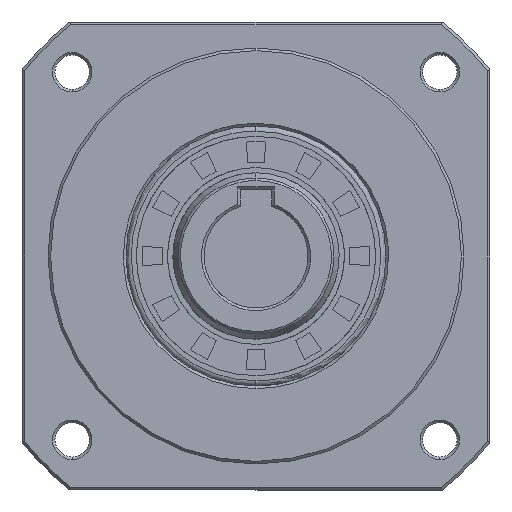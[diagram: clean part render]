
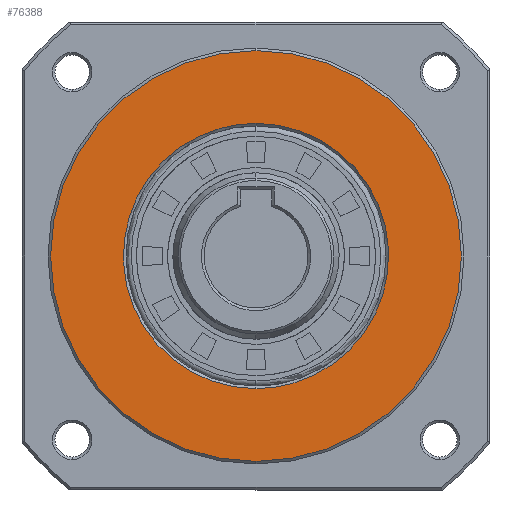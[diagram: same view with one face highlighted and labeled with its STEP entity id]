
A CAD part, left-side view. The second image highlights one B-rep face of the part: STEP entity #76388.
In plain terms, the highlighted planar face has unit normal (-1, 0, 0).
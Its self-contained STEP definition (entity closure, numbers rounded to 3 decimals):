
#1049 = DIRECTION ( 'NONE',  ( 0., 0., -1. ) ) ;
#2673 = CARTESIAN_POINT ( 'NONE',  ( 0., -25.337, -3.333 ) ) ;
#3002 = CARTESIAN_POINT ( 'NONE',  ( 0., -15.559, -20.272 ) ) ;
#4056 = CARTESIAN_POINT ( 'NONE',  ( 0., 25.5, -1.674 ) ) ;
#6644 = CARTESIAN_POINT ( 'NONE',  ( 0., -1.674, 25.5 ) ) ;
#7925 = CARTESIAN_POINT ( 'NONE',  ( 0., -24.2, 8.212 ) ) ;
#9591 = EDGE_CURVE ( 'NONE', #60643, #68438, #23254, .T. ) ;
#10232 = CARTESIAN_POINT ( 'NONE',  ( 0., -25.5, 1.674 ) ) ;
#10330 = CARTESIAN_POINT ( 'NONE',  ( 0., 20.272, -15.559 ) ) ;
#11310 = CARTESIAN_POINT ( 'NONE',  ( 0., 15.559, 20.272 ) ) ;
#11628 = CARTESIAN_POINT ( 'NONE',  ( 0., 0., 25.5 ) ) ;
#12133 = AXIS2_PLACEMENT_3D ( 'NONE', #48439, #71153, #40581 ) ;
#15513 = CARTESIAN_POINT ( 'NONE',  ( 0., -6.617, 24.683 ) ) ;
#15834 = CARTESIAN_POINT ( 'NONE',  ( 0., -11.305, 22.918 ) ) ;
#17261 = CARTESIAN_POINT ( 'NONE',  ( 0., 24.2, -8.212 ) ) ;
#17814 = CARTESIAN_POINT ( 'NONE',  ( 0., -19.215, -16.848 ) ) ;
#18442 = CARTESIAN_POINT ( 'NONE',  ( 0., 0., 0. ) ) ;
#18554 = CARTESIAN_POINT ( 'NONE',  ( 0., 19.215, -16.848 ) ) ;
#18869 = CARTESIAN_POINT ( 'NONE',  ( 0., 25.337, 3.333 ) ) ;
#19202 = CARTESIAN_POINT ( 'NONE',  ( 0., 20.272, 15.559 ) ) ;
#22404 = ORIENTED_EDGE ( 'NONE', *, *, #97047, .F. ) ;
#23117 = CARTESIAN_POINT ( 'NONE',  ( 0., -12.775, -22.133 ) ) ;
#23254 = B_SPLINE_CURVE_WITH_KNOTS ( 'NONE', 3,
 ( #56067, #32433, #71191, #33725, #70877, #63653, #85728, #62332, #55409, #18554, #10330, #25508, #63004, #17261, #69908, #85078, #4056, #41607, #18869, #71842, #26797, #86687, #94291, #19202, #71514, #56378, #11310, #63982, #26473, #79141, #49123, #34049, #56714, #11628 ),
 .UNSPECIFIED., .F., .F.,
 ( 4, 2, 2, 2, 2, 2, 2, 2, 2, 2, 2, 2, 2, 2, 2, 2, 4 ),
 ( 0.5, 0.531, 0.563, 0.594, 0.625, 0.656, 0.688, 0.719, 0.75, 0.781, 0.813, 0.844, 0.875, 0.906, 0.938, 0.969, 1. ),
 .UNSPECIFIED. ) ;
#23706 = AXIS2_PLACEMENT_3D ( 'NONE', #18442, #71082, #26042 ) ;
#23742 = CARTESIAN_POINT ( 'NONE',  ( 0., -16.848, -19.215 ) ) ;
#24618 = VERTEX_POINT ( 'NONE', #49367 ) ;
#25071 = CIRCLE ( 'NONE', #23706, 39.5 ) ;
#25414 = CARTESIAN_POINT ( 'NONE',  ( 0., -12.775, 22.132 ) ) ;
#25508 = CARTESIAN_POINT ( 'NONE',  ( 0., 22.133, -12.775 ) ) ;
#26042 = DIRECTION ( 'NONE',  ( 0., 0., -1. ) ) ;
#26473 = CARTESIAN_POINT ( 'NONE',  ( 0., 11.305, 22.918 ) ) ;
#26789 = CARTESIAN_POINT ( 'NONE',  ( 0., 0., -25.5 ) ) ;
#26797 = CARTESIAN_POINT ( 'NONE',  ( 0., 24.2, 8.212 ) ) ;
#28980 = ORIENTED_EDGE ( 'NONE', *, *, #95268, .F. ) ;
#30678 = CARTESIAN_POINT ( 'NONE',  ( 0., -3.333, -25.337 ) ) ;
#31001 = CARTESIAN_POINT ( 'NONE',  ( 0., -3.333, 25.337 ) ) ;
#32433 = CARTESIAN_POINT ( 'NONE',  ( 0., 1.674, -25.5 ) ) ;
#32656 = CARTESIAN_POINT ( 'NONE',  ( 0., -24.683, 6.617 ) ) ;
#32974 = CARTESIAN_POINT ( 'NONE',  ( 0., -22.918, -11.305 ) ) ;
#33725 = CARTESIAN_POINT ( 'NONE',  ( 0., 6.617, -24.683 ) ) ;
#34049 = CARTESIAN_POINT ( 'NONE',  ( 0., 3.333, 25.337 ) ) ;
#38233 = CARTESIAN_POINT ( 'NONE',  ( 0., -8.212, -24.2 ) ) ;
#38544 = CARTESIAN_POINT ( 'NONE',  ( 0., -20.272, 15.559 ) ) ;
#39548 = EDGE_CURVE ( 'NONE', #68438, #60643, #92985, .T. ) ;
#40523 = CARTESIAN_POINT ( 'NONE',  ( 0., -22.918, 11.305 ) ) ;
#40581 = DIRECTION ( 'NONE',  ( 0., 0., -1. ) ) ;
#41607 = CARTESIAN_POINT ( 'NONE',  ( 0., 25.5, 1.674 ) ) ;
#42940 = CARTESIAN_POINT ( 'NONE',  ( 0., 0., -39.5 ) ) ;
#45433 = CARTESIAN_POINT ( 'NONE',  ( 0., -1.674, -25.5 ) ) ;
#46998 = CIRCLE ( 'NONE', #57131, 39.5 ) ;
#48054 = CARTESIAN_POINT ( 'NONE',  ( 0., -20.272, -15.559 ) ) ;
#48439 = CARTESIAN_POINT ( 'NONE',  ( 0., -39.974, 39.974 ) ) ;
#49123 = CARTESIAN_POINT ( 'NONE',  ( 0., 6.617, 24.683 ) ) ;
#49367 = CARTESIAN_POINT ( 'NONE',  ( 0., 0., 39.5 ) ) ;
#51724 = CARTESIAN_POINT ( 'NONE',  ( 0., 0., 25.5 ) ) ;
#53359 = CARTESIAN_POINT ( 'NONE',  ( 0., 0., 0. ) ) ;
#55311 = CARTESIAN_POINT ( 'NONE',  ( 0., 0., -25.5 ) ) ;
#55409 = CARTESIAN_POINT ( 'NONE',  ( 0., 16.848, -19.215 ) ) ;
#55639 = CARTESIAN_POINT ( 'NONE',  ( 0., -15.559, 20.272 ) ) ;
#56067 = CARTESIAN_POINT ( 'NONE',  ( 0., 0., -25.5 ) ) ;
#56378 = CARTESIAN_POINT ( 'NONE',  ( 0., 16.848, 19.215 ) ) ;
#56714 = CARTESIAN_POINT ( 'NONE',  ( 0., 1.675, 25.5 ) ) ;
#57131 = AXIS2_PLACEMENT_3D ( 'NONE', #53359, #60622, #1049 ) ;
#60559 = CARTESIAN_POINT ( 'NONE',  ( 0., -24.683, -6.617 ) ) ;
#60622 = DIRECTION ( 'NONE',  ( 1., 0., 0. ) ) ;
#60643 = VERTEX_POINT ( 'NONE', #26789 ) ;
#61210 = CARTESIAN_POINT ( 'NONE',  ( 0., -22.132, -12.775 ) ) ;
#62332 = CARTESIAN_POINT ( 'NONE',  ( 0., 15.559, -20.272 ) ) ;
#62854 = EDGE_LOOP ( 'NONE', ( #80956, #71597 ) ) ;
#63004 = CARTESIAN_POINT ( 'NONE',  ( 0., 22.918, -11.305 ) ) ;
#63292 = PLANE ( 'NONE',  #12133 ) ;
#63653 = CARTESIAN_POINT ( 'NONE',  ( 0., 11.305, -22.918 ) ) ;
#63982 = CARTESIAN_POINT ( 'NONE',  ( 0., 12.775, 22.133 ) ) ;
#66271 = CARTESIAN_POINT ( 'NONE',  ( 0., 0., 25.5 ) ) ;
#68161 = CARTESIAN_POINT ( 'NONE',  ( 0., -22.133, 12.775 ) ) ;
#68438 = VERTEX_POINT ( 'NONE', #66271 ) ;
#69908 = CARTESIAN_POINT ( 'NONE',  ( 0., 24.683, -6.617 ) ) ;
#70475 = CARTESIAN_POINT ( 'NONE',  ( 0., -11.305, -22.918 ) ) ;
#70877 = CARTESIAN_POINT ( 'NONE',  ( 0., 8.212, -24.2 ) ) ;
#71082 = DIRECTION ( 'NONE',  ( 1., 0., 0. ) ) ;
#71153 = DIRECTION ( 'NONE',  ( 1., 0., 0. ) ) ;
#71191 = CARTESIAN_POINT ( 'NONE',  ( 0., 3.333, -25.337 ) ) ;
#71514 = CARTESIAN_POINT ( 'NONE',  ( 0., 19.215, 16.848 ) ) ;
#71597 = ORIENTED_EDGE ( 'NONE', *, *, #9591, .T. ) ;
#71842 = CARTESIAN_POINT ( 'NONE',  ( 0., 24.683, 6.617 ) ) ;
#71998 = FACE_OUTER_BOUND ( 'NONE', #80585, .T. ) ;
#75720 = CARTESIAN_POINT ( 'NONE',  ( 0., -6.617, -24.683 ) ) ;
#76388 = ADVANCED_FACE ( 'NONE', ( #92071, #71998 ), #63292, .F. ) ;
#77725 = CARTESIAN_POINT ( 'NONE',  ( 0., -25.337, 3.333 ) ) ;
#79141 = CARTESIAN_POINT ( 'NONE',  ( 0., 8.212, 24.2 ) ) ;
#80585 = EDGE_LOOP ( 'NONE', ( #22404, #28980 ) ) ;
#80956 = ORIENTED_EDGE ( 'NONE', *, *, #39548, .T. ) ;
#83655 = CARTESIAN_POINT ( 'NONE',  ( 0., -19.215, 16.848 ) ) ;
#85078 = CARTESIAN_POINT ( 'NONE',  ( 0., 25.337, -3.333 ) ) ;
#85634 = CARTESIAN_POINT ( 'NONE',  ( 0., -16.848, 19.215 ) ) ;
#85728 = CARTESIAN_POINT ( 'NONE',  ( 0., 12.775, -22.132 ) ) ;
#86687 = CARTESIAN_POINT ( 'NONE',  ( 0., 22.918, 11.305 ) ) ;
#90910 = CARTESIAN_POINT ( 'NONE',  ( 0., -8.212, 24.2 ) ) ;
#91224 = CARTESIAN_POINT ( 'NONE',  ( 0., -24.2, -8.212 ) ) ;
#92071 = FACE_BOUND ( 'NONE', #62854, .T. ) ;
#92985 = B_SPLINE_CURVE_WITH_KNOTS ( 'NONE', 3,
 ( #51724, #6644, #31001, #15513, #90910, #15834, #25414, #55639, #85634, #83655, #38544, #68161, #40523, #7925, #32656, #77725, #10232, #93220, #2673, #60559, #91224, #32974, #61210, #48054, #17814, #23742, #3002, #23117, #70475, #38233, #75720, #30678, #45433, #55311 ),
 .UNSPECIFIED., .F., .F.,
 ( 4, 2, 2, 2, 2, 2, 2, 2, 2, 2, 2, 2, 2, 2, 2, 2, 4 ),
 ( 0., 0.031, 0.063, 0.094, 0.125, 0.156, 0.188, 0.219, 0.25, 0.281, 0.313, 0.344, 0.375, 0.406, 0.438, 0.469, 0.5 ),
 .UNSPECIFIED. ) ;
#93220 = CARTESIAN_POINT ( 'NONE',  ( 0., -25.5, -1.674 ) ) ;
#94291 = CARTESIAN_POINT ( 'NONE',  ( 0., 22.132, 12.775 ) ) ;
#95268 = EDGE_CURVE ( 'NONE', #24618, #96758, #25071, .T. ) ;
#96758 = VERTEX_POINT ( 'NONE', #42940 ) ;
#97047 = EDGE_CURVE ( 'NONE', #96758, #24618, #46998, .T. ) ;
